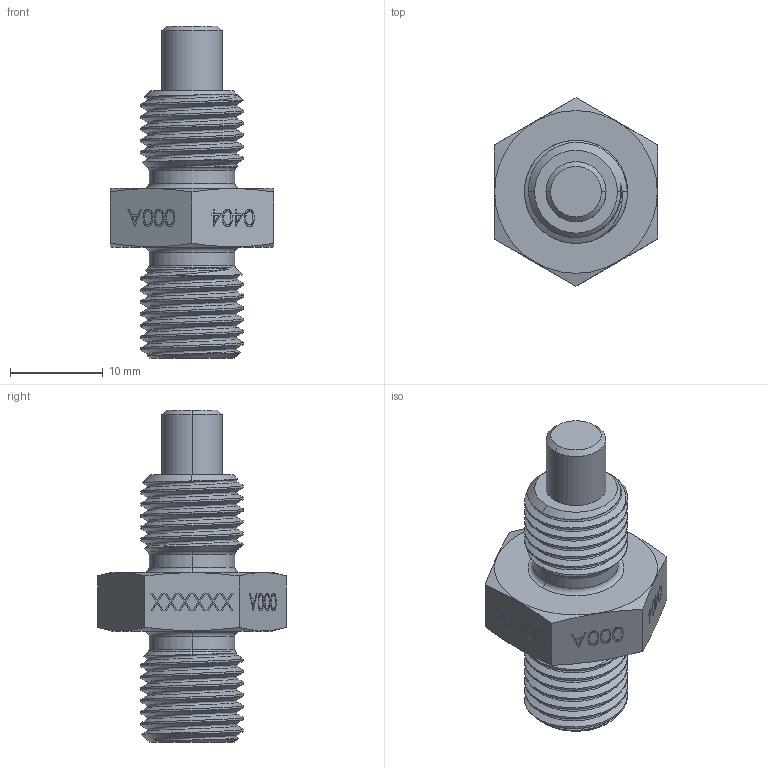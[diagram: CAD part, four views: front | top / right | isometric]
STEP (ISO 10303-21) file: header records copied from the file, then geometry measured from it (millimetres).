
FILE_DESCRIPTION (( 'STEP AP214' ), '1' );
FILE_NAME ('3DFSIA0404000A.STEP', '2021-03-31T18:33:51', ( '' ), ( '' ), 'SwSTEP 2.0', 'SolidWorks 2019', '' );
FILE_SCHEMA (( 'AUTOMOTIVE_DESIGN' ));
Length unit declared in the file: inch
Products named in the file (1): 3DFSIA0404000A
Bounding box: 17.6 x 20.33 x 35.81 mm (x, y, z)
Volume: 3730 mm3; surface area: 2095.6 mm2
Topology: 1 solids, 1 shells, 350 faces, 924 edges, 611 vertices
Faces by surface type: plane 229, bspline 66, cylinder 31, cone 16, torus 8
Entity records: 22086 total; most frequent: CARTESIAN_POINT 10466, ORIENTED_EDGE 1848, DIRECTION 1325, EDGE_CURVE 924, LINE 669, VECTOR 669, VERTEX_POINT 611, EDGE_LOOP 385
